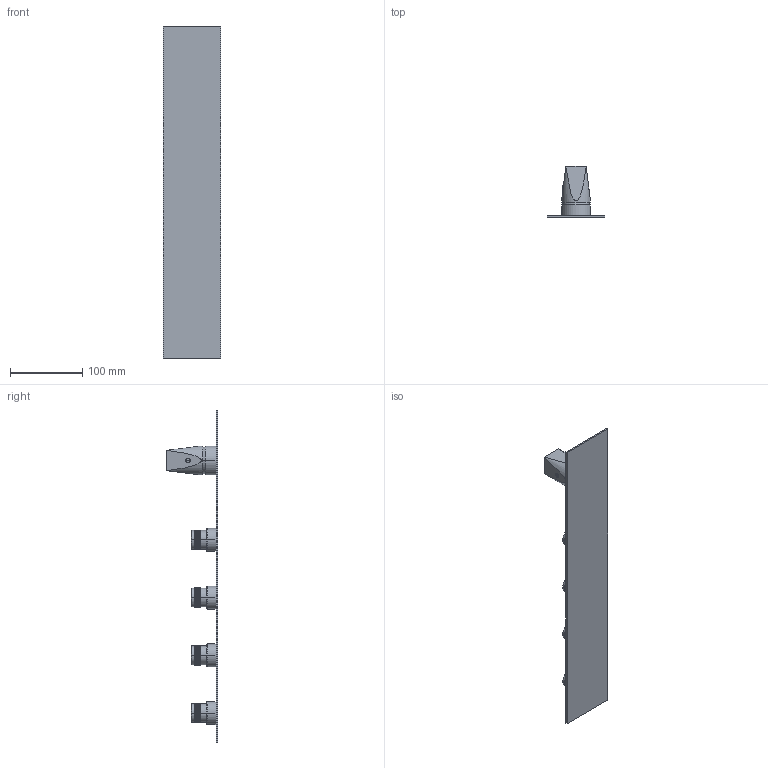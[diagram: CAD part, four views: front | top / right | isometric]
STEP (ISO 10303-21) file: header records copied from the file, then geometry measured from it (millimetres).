
FILE_DESCRIPTION((''),'2;1');
FILE_NAME('49000V421_SW0001','2023-09-21T10:31:00',('carloff'),(''),'CREO PARAMETRIC BY PTC INC, 2022014','CREO PARAMETRIC BY PTC INC, 2022014','');
FILE_SCHEMA(('CONFIG_CONTROL_DESIGN'));
Products named in the file (1): 49000V421_SW0001
Bounding box: 80 x 70.7 x 460 mm (x, y, z)
Volume: 236821.9 mm3; surface area: 97285.5 mm2
Topology: 1 solids, 1 shells, 6586 faces, 16415 edges, 10849 vertices
Faces by surface type: bspline 5122, cylinder 1400, plane 31, torus 20, sphere 10, cone 3
Entity records: 279426 total; most frequent: CARTESIAN_POINT 157472, ORIENTED_EDGE 32810, EDGE_CURVE 16405, VERTEX_POINT 10849, B_SPLINE_CURVE_WITH_KNOTS 10382, DIRECTION 9550, EDGE_LOOP 7616, FACE_OUTER_BOUND 6586
